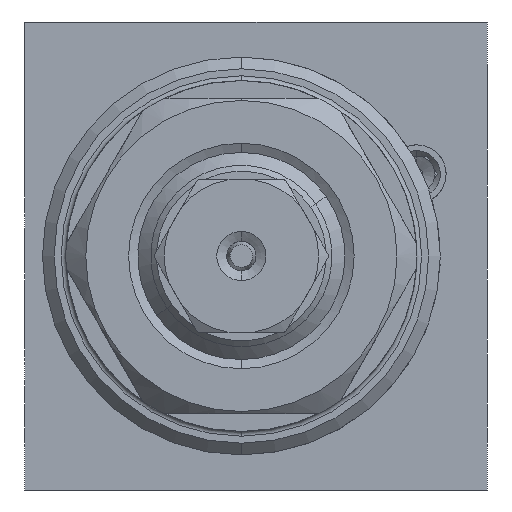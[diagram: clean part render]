
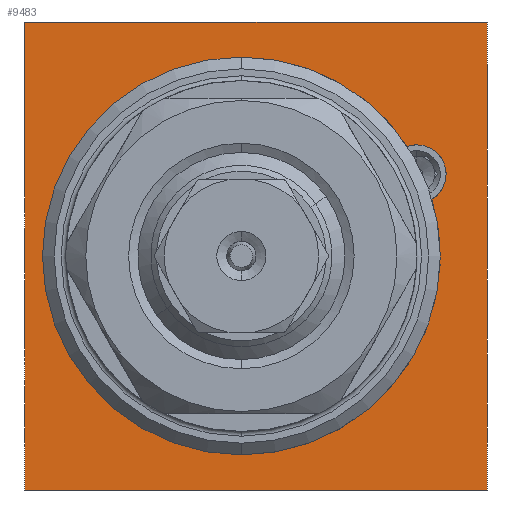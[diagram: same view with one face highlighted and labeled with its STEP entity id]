
A CAD part, left-side view. The second image highlights one B-rep face of the part: STEP entity #9483.
In plain terms, the highlighted planar face has unit normal (-1, 0, 0).
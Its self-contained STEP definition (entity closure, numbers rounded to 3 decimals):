
#120 = CIRCLE ( 'NONE', #3022, 17. ) ;
#455 = PLANE ( 'NONE',  #11679 ) ;
#470 = DIRECTION ( 'NONE',  ( -1., 0., 0. ) ) ;
#496 = DIRECTION ( 'NONE',  ( 1., 0., 0. ) ) ;
#534 = VERTEX_POINT ( 'NONE', #3750 ) ;
#820 = EDGE_CURVE ( 'NONE', #7421, #9622, #2744, .T. ) ;
#864 = CARTESIAN_POINT ( 'NONE',  ( 0., -20.457, 20. ) ) ;
#885 = CIRCLE ( 'NONE', #2346, 17. ) ;
#898 = LINE ( 'NONE', #864, #11660 ) ;
#963 = VECTOR ( 'NONE', #2662, 1000. ) ;
#1076 = AXIS2_PLACEMENT_3D ( 'NONE', #8958, #3535, #9889 ) ;
#1456 = EDGE_LOOP ( 'NONE', ( #7105, #7129, #7151, #7182 ) ) ;
#1695 = LINE ( 'NONE', #6886, #7946 ) ;
#1818 = DIRECTION ( 'NONE',  ( 0., 1., 0. ) ) ;
#2346 = AXIS2_PLACEMENT_3D ( 'NONE', #9931, #4501, #10896 ) ;
#2438 = EDGE_LOOP ( 'NONE', ( #7210, #7275, #7305, #7363, #7377 ) ) ;
#2662 = DIRECTION ( 'NONE',  ( 0., 0., 1. ) ) ;
#2744 = CIRCLE ( 'NONE', #1076, 17. ) ;
#2972 = EDGE_CURVE ( 'NONE', #5946, #7039, #5123, .T. ) ;
#2981 = AXIS2_PLACEMENT_3D ( 'NONE', #6637, #6854, #7004 ) ;
#3022 = AXIS2_PLACEMENT_3D ( 'NONE', #10095, #4673, #11084 ) ;
#3101 = VERTEX_POINT ( 'NONE', #9056 ) ;
#3218 = LINE ( 'NONE', #8031, #963 ) ;
#3236 = DIRECTION ( 'NONE',  ( 0., 0., 1. ) ) ;
#3349 = CIRCLE ( 'NONE', #6448, 2.5 ) ;
#3535 = DIRECTION ( 'NONE',  ( -1., 0., 0. ) ) ;
#3750 = CARTESIAN_POINT ( 'NONE',  ( 0., 19.75, 20. ) ) ;
#4392 = EDGE_CURVE ( 'NONE', #7104, #3101, #8524, .T. ) ;
#4487 = EDGE_CURVE ( 'NONE', #7104, #6852, #1695, .T. ) ;
#4501 = DIRECTION ( 'NONE',  ( -1., 0., 0. ) ) ;
#4629 = EDGE_CURVE ( 'NONE', #3101, #534, #3218, .T. ) ;
#4673 = DIRECTION ( 'NONE',  ( -1., 0., 0. ) ) ;
#4706 = EDGE_CURVE ( 'NONE', #6852, #534, #898, .T. ) ;
#4713 = EDGE_CURVE ( 'NONE', #7039, #7421, #885, .T. ) ;
#4721 = FACE_BOUND ( 'NONE', #2438, .T. ) ;
#4911 = FACE_OUTER_BOUND ( 'NONE', #1456, .T. ) ;
#5123 = CIRCLE ( 'NONE', #2981, 2.5 ) ;
#5242 = CARTESIAN_POINT ( 'NONE',  ( 0., 1.25, -17. ) ) ;
#5851 = CARTESIAN_POINT ( 'NONE',  ( 0., -20.457, -20. ) ) ;
#5921 = CARTESIAN_POINT ( 'NONE',  ( 0., -13.75, 7. ) ) ;
#5946 = VERTEX_POINT ( 'NONE', #7542 ) ;
#5948 = CARTESIAN_POINT ( 'NONE',  ( 0., 19.75, 20. ) ) ;
#5980 = CARTESIAN_POINT ( 'NONE',  ( 0., -15.041, 4.859 ) ) ;
#6226 = CARTESIAN_POINT ( 'NONE',  ( 0., 1.25, 17. ) ) ;
#6448 = AXIS2_PLACEMENT_3D ( 'NONE', #5921, #470, #6808 ) ;
#6637 = CARTESIAN_POINT ( 'NONE',  ( 0., -13.75, 7. ) ) ;
#6808 = DIRECTION ( 'NONE',  ( 0., 0., 1. ) ) ;
#6830 = DIRECTION ( 'NONE',  ( 0., 0., -1. ) ) ;
#6852 = VERTEX_POINT ( 'NONE', #9422 ) ;
#6854 = DIRECTION ( 'NONE',  ( -1., 0., 0. ) ) ;
#6886 = CARTESIAN_POINT ( 'NONE',  ( 0., -19.75, -20.707 ) ) ;
#7004 = DIRECTION ( 'NONE',  ( 0., 0., 1. ) ) ;
#7039 = VERTEX_POINT ( 'NONE', #8676 ) ;
#7104 = VERTEX_POINT ( 'NONE', #10680 ) ;
#7105 = ORIENTED_EDGE ( 'NONE', *, *, #4629, .F. ) ;
#7129 = ORIENTED_EDGE ( 'NONE', *, *, #4392, .F. ) ;
#7151 = ORIENTED_EDGE ( 'NONE', *, *, #4487, .T. ) ;
#7182 = ORIENTED_EDGE ( 'NONE', *, *, #4706, .T. ) ;
#7210 = ORIENTED_EDGE ( 'NONE', *, *, #4713, .F. ) ;
#7275 = ORIENTED_EDGE ( 'NONE', *, *, #2972, .F. ) ;
#7305 = ORIENTED_EDGE ( 'NONE', *, *, #10996, .F. ) ;
#7363 = ORIENTED_EDGE ( 'NONE', *, *, #10826, .F. ) ;
#7377 = ORIENTED_EDGE ( 'NONE', *, *, #820, .F. ) ;
#7421 = VERTEX_POINT ( 'NONE', #6226 ) ;
#7542 = CARTESIAN_POINT ( 'NONE',  ( 0., -13.75, 9.5 ) ) ;
#7946 = VECTOR ( 'NONE', #3236, 1000. ) ;
#8031 = CARTESIAN_POINT ( 'NONE',  ( 0., 19.75, -20.707 ) ) ;
#8511 = VECTOR ( 'NONE', #8532, 1000. ) ;
#8524 = LINE ( 'NONE', #5851, #8511 ) ;
#8532 = DIRECTION ( 'NONE',  ( 0., 1., 0. ) ) ;
#8676 = CARTESIAN_POINT ( 'NONE',  ( 0., -12.938, 9.365 ) ) ;
#8958 = CARTESIAN_POINT ( 'NONE',  ( 0., 1.25, 0. ) ) ;
#9056 = CARTESIAN_POINT ( 'NONE',  ( 0., 19.75, -20. ) ) ;
#9422 = CARTESIAN_POINT ( 'NONE',  ( 0., -19.75, 20. ) ) ;
#9483 = ADVANCED_FACE ( 'NONE', ( #4911, #4721 ), #455, .F. ) ;
#9622 = VERTEX_POINT ( 'NONE', #5242 ) ;
#9889 = DIRECTION ( 'NONE',  ( 0., 0., 1. ) ) ;
#9931 = CARTESIAN_POINT ( 'NONE',  ( 0., 1.25, 0. ) ) ;
#10095 = CARTESIAN_POINT ( 'NONE',  ( 0., 1.25, 0. ) ) ;
#10567 = VERTEX_POINT ( 'NONE', #5980 ) ;
#10680 = CARTESIAN_POINT ( 'NONE',  ( 0., -19.75, -20. ) ) ;
#10826 = EDGE_CURVE ( 'NONE', #9622, #10567, #120, .T. ) ;
#10896 = DIRECTION ( 'NONE',  ( 0., 0., 1. ) ) ;
#10996 = EDGE_CURVE ( 'NONE', #10567, #5946, #3349, .T. ) ;
#11084 = DIRECTION ( 'NONE',  ( 0., 0., 1. ) ) ;
#11660 = VECTOR ( 'NONE', #1818, 1000. ) ;
#11679 = AXIS2_PLACEMENT_3D ( 'NONE', #5948, #496, #6830 ) ;
